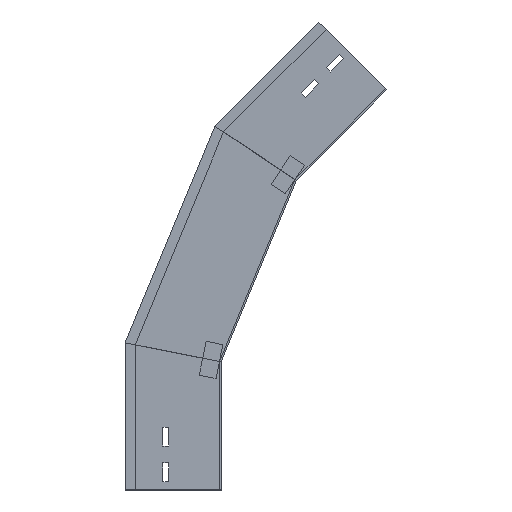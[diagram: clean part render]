
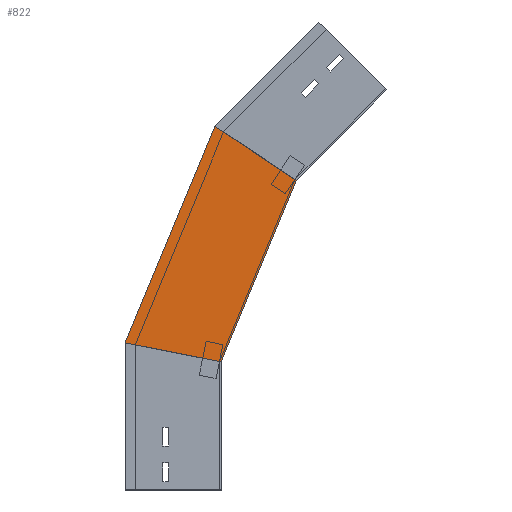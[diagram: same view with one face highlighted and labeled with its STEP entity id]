
A CAD part, left-side view. The second image highlights one B-rep face of the part: STEP entity #822.
In plain terms, the highlighted planar face has unit normal (-1, 0, 0) as drawn and (1, 0, 0) by its records, which use the part's own axes.
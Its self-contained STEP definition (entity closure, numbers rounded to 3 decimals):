
#87 = CARTESIAN_POINT ( 'NONE',  ( 0., -28.701, 144.291 ) ) ;
#108 = EDGE_CURVE ( 'NONE', #1295, #1261, #328, .T. ) ;
#196 = VECTOR ( 'NONE', #210, 1000. ) ;
#210 = DIRECTION ( 'NONE',  ( 0., -0.383, 0.924 ) ) ;
#232 = VECTOR ( 'NONE', #570, 1000. ) ;
#246 = CARTESIAN_POINT ( 'NONE',  ( 0., 0., 150. ) ) ;
#278 = PLANE ( 'NONE',  #1384 ) ;
#316 = ORIENTED_EDGE ( 'NONE', *, *, #1447, .T. ) ;
#322 = LINE ( 'NONE', #1247, #196 ) ;
#328 = LINE ( 'NONE', #87, #232 ) ;
#337 = LINE ( 'NONE', #1033, #435 ) ;
#345 = CARTESIAN_POINT ( 'NONE',  ( 0., 7.356, 426.218 ) ) ;
#350 = ORIENTED_EDGE ( 'NONE', *, *, #108, .F. ) ;
#418 = ORIENTED_EDGE ( 'NONE', *, *, #537, .T. ) ;
#435 = VECTOR ( 'NONE', #809, 1000. ) ;
#440 = VERTEX_POINT ( 'NONE', #345 ) ;
#537 = EDGE_CURVE ( 'NONE', #1295, #440, #322, .T. ) ;
#570 = DIRECTION ( 'NONE',  ( 0., -0.981, -0.195 ) ) ;
#577 = VERTEX_POINT ( 'NONE', #948 ) ;
#692 = DIRECTION ( 'NONE',  ( 0., -0.383, 0.924 ) ) ;
#741 = DIRECTION ( 'NONE',  ( 0., 0., -1. ) ) ;
#809 = DIRECTION ( 'NONE',  ( 0., -0.831, -0.556 ) ) ;
#822 = ADVANCED_FACE ( 'NONE', ( #842 ), #278, .T. ) ;
#842 = FACE_OUTER_BOUND ( 'NONE', #1275, .T. ) ;
#877 = CARTESIAN_POINT ( 'NONE',  ( 0., 9.458, 127.166 ) ) ;
#888 = VECTOR ( 'NONE', #692, 1000. ) ;
#948 = CARTESIAN_POINT ( 'NONE',  ( 0., -88.017, 362.492 ) ) ;
#981 = LINE ( 'NONE', #877, #888 ) ;
#991 = EDGE_CURVE ( 'NONE', #1261, #577, #981, .T. ) ;
#1033 = CARTESIAN_POINT ( 'NONE',  ( 0., -129.335, 334.885 ) ) ;
#1068 = DIRECTION ( 'NONE',  ( 1., 0., 0. ) ) ;
#1191 = CARTESIAN_POINT ( 'NONE',  ( 0., 9.458, 127.166 ) ) ;
#1247 = CARTESIAN_POINT ( 'NONE',  ( 0., 113.395, 170.218 ) ) ;
#1261 = VERTEX_POINT ( 'NONE', #246 ) ;
#1275 = EDGE_LOOP ( 'NONE', ( #418, #316, #1379, #350 ) ) ;
#1295 = VERTEX_POINT ( 'NONE', #1426 ) ;
#1379 = ORIENTED_EDGE ( 'NONE', *, *, #991, .F. ) ;
#1384 = AXIS2_PLACEMENT_3D ( 'NONE', #1191, #1068, #741 ) ;
#1426 = CARTESIAN_POINT ( 'NONE',  ( 0., 112.5, 172.378 ) ) ;
#1447 = EDGE_CURVE ( 'NONE', #440, #577, #337, .T. ) ;
